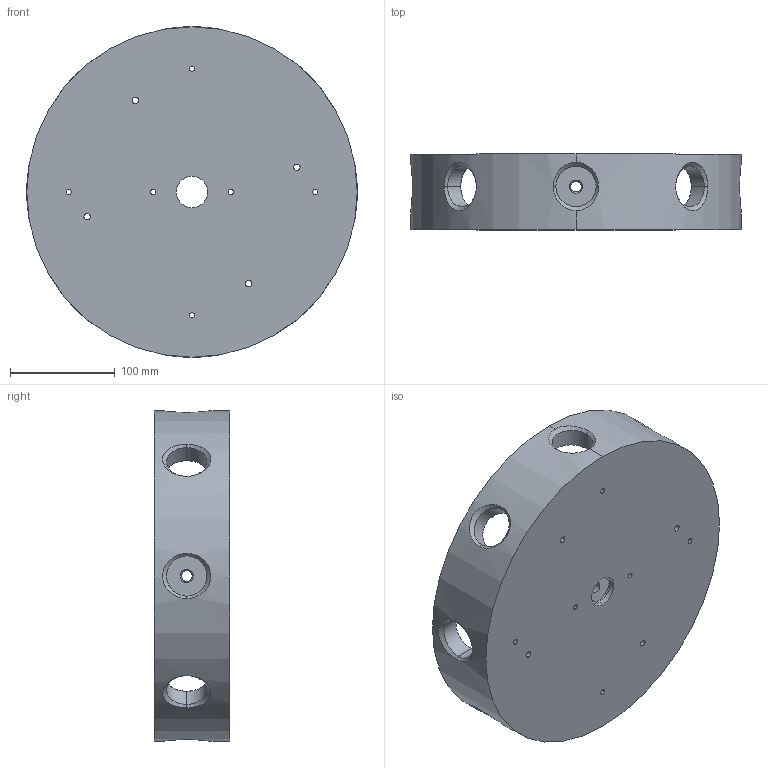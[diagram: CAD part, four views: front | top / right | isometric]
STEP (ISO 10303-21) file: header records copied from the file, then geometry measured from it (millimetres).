
FILE_DESCRIPTION (( 'STEP AP214' ), '1' );
FILE_NAME ('ﾟﾌﾈﾄ.731171.011 ﾎ魵瑙韃.STEP', '2024-02-26T12:11:00', ( '' ), ( '' ), 'SwSTEP 2.0', 'SolidWorks 2022', '' );
FILE_SCHEMA (( 'AUTOMOTIVE_DESIGN' ));
Length unit declared in the file: millimetre
Products named in the file (1): ЯМИД.731171.011 Основание
Bounding box: 315 x 72 x 315 mm (x, y, z)
Volume: 2155726 mm3; surface area: 330486.1 mm2
Topology: 1 solids, 1 shells, 194 faces, 496 edges, 292 vertices
Faces by surface type: cylinder 92, cone 80, plane 22
Entity records: 7479 total; most frequent: CARTESIAN_POINT 2696, DIRECTION 1030, ORIENTED_EDGE 944, EDGE_CURVE 472, AXIS2_PLACEMENT_3D 403, VERTEX_POINT 292, EDGE_LOOP 260, LINE 224
